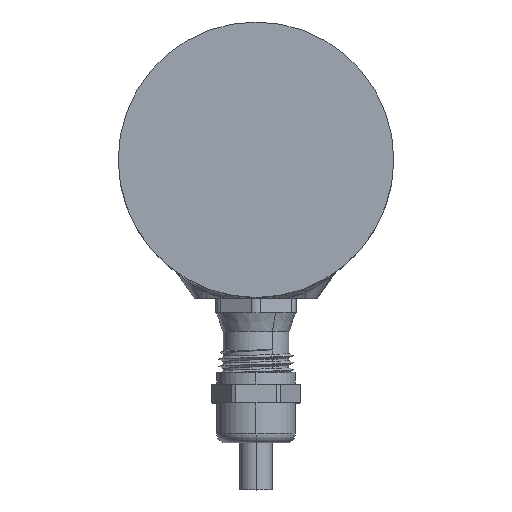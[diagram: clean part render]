
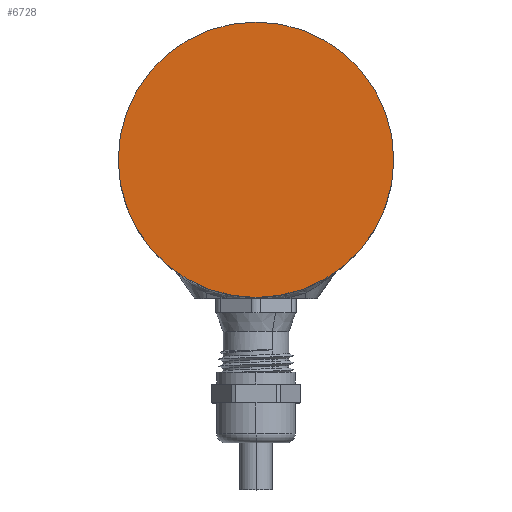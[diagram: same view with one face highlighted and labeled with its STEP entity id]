
A CAD part, top view. The second image highlights one B-rep face of the part: STEP entity #6728.
In plain terms, the highlighted planar face has unit normal (0, 0, 1).
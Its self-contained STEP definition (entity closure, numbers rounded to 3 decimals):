
#543 = DIRECTION ( 'NONE',  ( -1., 0., 0. ) ) ;
#1209 = EDGE_CURVE ( 'NONE', #14192, #1726, #6400, .T. ) ;
#1726 = VERTEX_POINT ( 'NONE', #13402 ) ;
#1937 = EDGE_LOOP ( 'NONE', ( #15450, #20520 ) ) ;
#3472 = DIRECTION ( 'NONE',  ( 0., 0., 1. ) ) ;
#3841 = AXIS2_PLACEMENT_3D ( 'NONE', #10538, #13999, #543 ) ;
#6400 = CIRCLE ( 'NONE', #16561, 29.3 ) ;
#6728 = ADVANCED_FACE ( 'NONE', ( #14350 ), #12444, .T. ) ;
#8184 = DIRECTION ( 'NONE',  ( 0., 0., 1. ) ) ;
#9908 = EDGE_CURVE ( 'NONE', #1726, #14192, #15121, .T. ) ;
#10538 = CARTESIAN_POINT ( 'NONE',  ( 0., 0., 43.2 ) ) ;
#12444 = PLANE ( 'NONE',  #3841 ) ;
#12838 = AXIS2_PLACEMENT_3D ( 'NONE', #13371, #8184, #20132 ) ;
#13371 = CARTESIAN_POINT ( 'NONE',  ( 0., 0., 43.2 ) ) ;
#13402 = CARTESIAN_POINT ( 'NONE',  ( 29.3, 0., 43.2 ) ) ;
#13999 = DIRECTION ( 'NONE',  ( 0., 0., 1. ) ) ;
#14192 = VERTEX_POINT ( 'NONE', #21779 ) ;
#14350 = FACE_OUTER_BOUND ( 'NONE', #1937, .T. ) ;
#15121 = CIRCLE ( 'NONE', #12838, 29.3 ) ;
#15430 = CARTESIAN_POINT ( 'NONE',  ( 0., 0., 43.2 ) ) ;
#15450 = ORIENTED_EDGE ( 'NONE', *, *, #9908, .T. ) ;
#16561 = AXIS2_PLACEMENT_3D ( 'NONE', #15430, #3472, #21921 ) ;
#20132 = DIRECTION ( 'NONE',  ( -1., 0., 0. ) ) ;
#20520 = ORIENTED_EDGE ( 'NONE', *, *, #1209, .T. ) ;
#21779 = CARTESIAN_POINT ( 'NONE',  ( -29.3, 0., 43.2 ) ) ;
#21921 = DIRECTION ( 'NONE',  ( -1., 0., 0. ) ) ;
